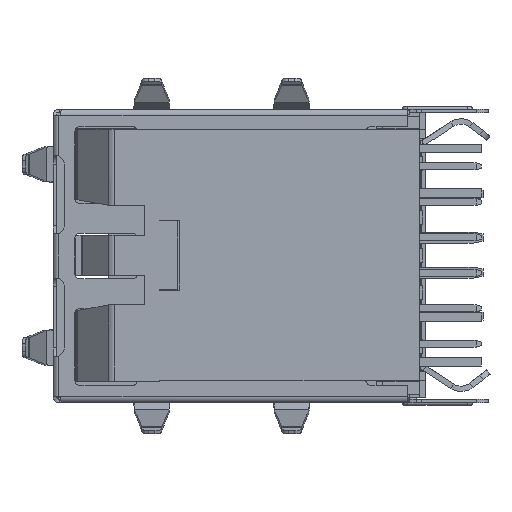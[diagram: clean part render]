
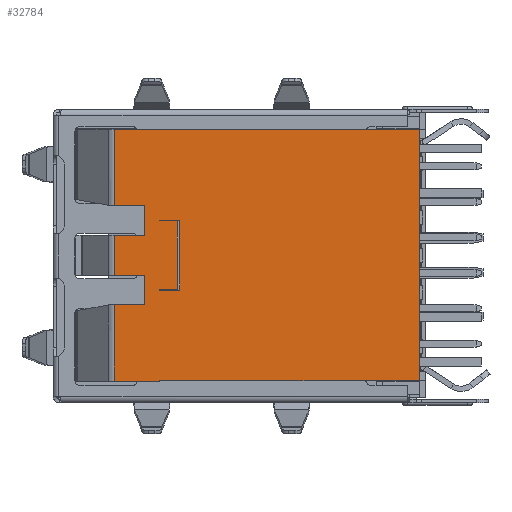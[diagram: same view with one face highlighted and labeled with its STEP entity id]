
A CAD part, left-side view. The second image highlights one B-rep face of the part: STEP entity #32784.
In plain terms, the highlighted planar face has unit normal (-1, 0, 0).
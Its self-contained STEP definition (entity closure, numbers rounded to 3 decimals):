
#2896=DIRECTION('',(0.,1.,0.));
#2897=VECTOR('',#2896,14.85);
#2898=CARTESIAN_POINT('',(-14.594,-7.823,7.175));
#2899=LINE('',#2898,#2897);
#2998=DIRECTION('',(0.,0.,1.));
#2999=VECTOR('',#2998,0.035);
#3000=CARTESIAN_POINT('',(-14.594,7.027,7.175));
#3001=LINE('',#3000,#2999);
#3014=DIRECTION('',(0.,0.,1.));
#3015=VECTOR('',#3014,0.035);
#3016=CARTESIAN_POINT('',(-14.594,7.027,-7.21));
#3017=LINE('',#3016,#3015);
#3022=DIRECTION('',(0.,1.,0.));
#3023=VECTOR('',#3022,2.593);
#3024=CARTESIAN_POINT('',(-14.594,7.027,-7.21));
#3025=LINE('',#3024,#3023);
#3026=DIRECTION('',(0.,-1.,0.));
#3027=VECTOR('',#3026,1.743);
#3028=CARTESIAN_POINT('',(-14.594,9.62,
-2.825));
#3029=LINE('',#3028,#3027);
#3030=DIRECTION('',(0.,1.,0.));
#3031=VECTOR('',#3030,1.743);
#3032=CARTESIAN_POINT('',(-14.594,7.877,2.825));
#3033=LINE('',#3032,#3031);
#3034=DIRECTION('',(0.,-1.,0.));
#3035=VECTOR('',#3034,2.593);
#3036=CARTESIAN_POINT('',(-14.594,9.62,7.21));
#3037=LINE('',#3036,#3035);
#3038=DIRECTION('',(0.,0.,-1.));
#3039=VECTOR('',#3038,14.35);
#3040=CARTESIAN_POINT('',(-14.594,-7.823,7.175));
#3041=LINE('',#3040,#3039);
#3042=DIRECTION('',(0.,-1.,0.));
#3043=VECTOR('',#3042,1.15);
#3044=CARTESIAN_POINT('',(-14.594,7.027,2.));
#3045=LINE('',#3044,#3043);
#3046=DIRECTION('',(0.,0.,1.));
#3047=VECTOR('',#3046,0.04);
#3048=CARTESIAN_POINT('',(-14.594,7.027,-2.));
#3049=LINE('',#3048,#3047);
#3060=DIRECTION('',(0.,0.,1.));
#3061=VECTOR('',#3060,0.04);
#3062=CARTESIAN_POINT('',(-14.594,7.027,1.96));
#3063=LINE('',#3062,#3061);
#3072=DIRECTION('',(0.,-1.,0.));
#3073=VECTOR('',#3072,1.15);
#3074=CARTESIAN_POINT('',(-14.594,7.027,-2.));
#3075=LINE('',#3074,#3073);
#3120=DIRECTION('',(0.,0.,1.));
#3121=VECTOR('',#3120,4.);
#3122=CARTESIAN_POINT('',(-14.594,5.877,
-2.));
#3123=LINE('',#3122,#3121);
#3128=DIRECTION('',(0.,-1.,0.));
#3129=VECTOR('',#3128,1.);
#3130=CARTESIAN_POINT('',(-14.594,7.027,
-1.96));
#3131=LINE('',#3130,#3129);
#3140=DIRECTION('',(0.,0.,1.));
#3141=VECTOR('',#3140,3.92);
#3142=CARTESIAN_POINT('',(-14.594,6.027,
-1.96));
#3143=LINE('',#3142,#3141);
#3152=DIRECTION('',(0.,-1.,0.));
#3153=VECTOR('',#3152,1.);
#3154=CARTESIAN_POINT('',(-14.594,7.027,1.96));
#3155=LINE('',#3154,#3153);
#3208=DIRECTION('',(0.,-1.,0.));
#3209=VECTOR('',#3208,14.85);
#3210=CARTESIAN_POINT('',(-14.594,7.027,-7.175));
#3211=LINE('',#3210,#3209);
#3976=DIRECTION('',(0.,0.,1.));
#3977=VECTOR('',#3976,1.675);
#3978=CARTESIAN_POINT('',(-14.594,7.877,
-2.825));
#3979=LINE('',#3978,#3977);
#4033=DIRECTION('',(0.,-1.,0.));
#4034=VECTOR('',#4033,1.743);
#4035=CARTESIAN_POINT('',(-14.594,9.62,-1.15));
#4036=LINE('',#4035,#4034);
#4172=DIRECTION('',(0.,0.,-1.));
#4173=VECTOR('',#4172,4.385);
#4174=CARTESIAN_POINT('',(-14.594,9.62,7.21));
#4175=LINE('',#4174,#4173);
#18400=DIRECTION('',(0.,-1.,0.));
#18401=VECTOR('',#18400,1.743);
#18402=CARTESIAN_POINT('',(-14.594,9.62,1.15));
#18403=LINE('',#18402,#18401);
#18461=DIRECTION('',(0.,0.,1.));
#18462=VECTOR('',#18461,1.675);
#18463=CARTESIAN_POINT('',(-14.594,7.877,
1.15));
#18464=LINE('',#18463,#18462);
#18473=DIRECTION('',(0.,0.,-1.));
#18474=VECTOR('',#18473,2.3);
#18475=CARTESIAN_POINT('',(-14.594,9.62,1.15));
#18476=LINE('',#18475,#18474);
#18922=DIRECTION('',(0.,0.,-1.));
#18923=VECTOR('',#18922,4.385);
#18924=CARTESIAN_POINT('',(-14.594,9.62,
-2.825));
#18925=LINE('',#18924,#18923);
#22084=CARTESIAN_POINT('',(-14.594,-7.823,7.175));
#22085=VERTEX_POINT('',#22084);
#22086=CARTESIAN_POINT('',(-14.594,-7.823,-7.175));
#22087=VERTEX_POINT('',#22086);
#25745=CARTESIAN_POINT('',(-14.594,9.62,
-2.825));
#25746=CARTESIAN_POINT('',(-14.594,7.877,
-2.825));
#25747=VERTEX_POINT('',#25745);
#25748=VERTEX_POINT('',#25746);
#25791=CARTESIAN_POINT('',(-14.594,7.877,
2.825));
#25792=CARTESIAN_POINT('',(-14.594,9.62,
2.825));
#25793=VERTEX_POINT('',#25791);
#25794=VERTEX_POINT('',#25792);
#25809=CARTESIAN_POINT('',(-14.594,9.62,7.21));
#25810=CARTESIAN_POINT('',(-14.594,7.027,7.21));
#25811=VERTEX_POINT('',#25809);
#25812=VERTEX_POINT('',#25810);
#25841=CARTESIAN_POINT('',(-14.594,7.027,-7.21));
#25842=CARTESIAN_POINT('',(-14.594,9.62,-7.21));
#25843=VERTEX_POINT('',#25841);
#25844=VERTEX_POINT('',#25842);
#27057=CARTESIAN_POINT('',(-14.594,7.027,7.175));
#27058=VERTEX_POINT('',#27057);
#27059=CARTESIAN_POINT('',(-14.594,7.877,
1.15));
#27060=VERTEX_POINT('',#27059);
#27061=CARTESIAN_POINT('',(-14.594,9.62,1.15));
#27062=VERTEX_POINT('',#27061);
#27063=CARTESIAN_POINT('',(-14.594,9.62,-1.15));
#27064=VERTEX_POINT('',#27063);
#27065=CARTESIAN_POINT('',(-14.594,7.877,
-1.15));
#27066=VERTEX_POINT('',#27065);
#27067=CARTESIAN_POINT('',(-14.594,7.027,-7.175));
#27068=VERTEX_POINT('',#27067);
#27069=CARTESIAN_POINT('',(-14.594,7.027,
2.));
#27070=CARTESIAN_POINT('',(-14.594,5.877,
2.));
#27071=VERTEX_POINT('',#27069);
#27072=VERTEX_POINT('',#27070);
#27073=CARTESIAN_POINT('',(-14.594,5.877,
-2.));
#27074=VERTEX_POINT('',#27073);
#27075=CARTESIAN_POINT('',(-14.594,7.027,-2.));
#27076=VERTEX_POINT('',#27075);
#27077=CARTESIAN_POINT('',(-14.594,7.027,
-1.96));
#27078=VERTEX_POINT('',#27077);
#27079=CARTESIAN_POINT('',(-14.594,6.027,
-1.96));
#27080=VERTEX_POINT('',#27079);
#27081=CARTESIAN_POINT('',(-14.594,6.027,
1.96));
#27082=VERTEX_POINT('',#27081);
#27083=CARTESIAN_POINT('',(-14.594,7.027,
1.96));
#27084=VERTEX_POINT('',#27083);
#32731=CARTESIAN_POINT('',(-14.594,-6.323,0.));
#32732=DIRECTION('',(1.,0.,0.));
#32733=DIRECTION('',(0.,-1.,0.));
#32734=AXIS2_PLACEMENT_3D('',#32731,#32732,#32733);
#32735=PLANE('',#32734);
#32737=ORIENTED_EDGE('',*,*,#32736,.F.);
#32738=ORIENTED_EDGE('',*,*,#32724,.F.);
#32740=ORIENTED_EDGE('',*,*,#32739,.T.);
#32742=ORIENTED_EDGE('',*,*,#32741,.F.);
#32744=ORIENTED_EDGE('',*,*,#32743,.T.);
#32746=ORIENTED_EDGE('',*,*,#32745,.T.);
#32748=ORIENTED_EDGE('',*,*,#32747,.F.);
#32750=ORIENTED_EDGE('',*,*,#32749,.F.);
#32752=ORIENTED_EDGE('',*,*,#32751,.T.);
#32754=ORIENTED_EDGE('',*,*,#32753,.T.);
#32756=ORIENTED_EDGE('',*,*,#32755,.T.);
#32758=ORIENTED_EDGE('',*,*,#32757,.F.);
#32760=ORIENTED_EDGE('',*,*,#32759,.T.);
#32761=ORIENTED_EDGE('',*,*,#32709,.F.);
#32762=ORIENTED_EDGE('',*,*,#32580,.F.);
#32763=ORIENTED_EDGE('',*,*,#28591,.T.);
#32764=EDGE_LOOP('',(#32737,#32738,#32740,#32742,#32744,#32746,#32748,#32750,
#32752,#32754,#32756,#32758,#32760,#32761,#32762,#32763));
#32765=FACE_OUTER_BOUND('',#32764,.F.);
#32767=ORIENTED_EDGE('',*,*,#32766,.F.);
#32769=ORIENTED_EDGE('',*,*,#32768,.F.);
#32771=ORIENTED_EDGE('',*,*,#32770,.T.);
#32773=ORIENTED_EDGE('',*,*,#32772,.F.);
#32775=ORIENTED_EDGE('',*,*,#32774,.F.);
#32777=ORIENTED_EDGE('',*,*,#32776,.F.);
#32779=ORIENTED_EDGE('',*,*,#32778,.T.);
#32781=ORIENTED_EDGE('',*,*,#32780,.T.);
#32782=EDGE_LOOP('',(#32767,#32769,#32771,#32773,#32775,#32777,#32779,#32781));
#32783=FACE_BOUND('',#32782,.F.);
#32784=ADVANCED_FACE('',(#32765,#32783),#32735,.F.);
#28591=EDGE_CURVE('',#22085,#22087,#3041,.T.);
#32580=EDGE_CURVE('',#22085,#27058,#2899,.T.);
#32709=EDGE_CURVE('',#27058,#25812,#3001,.T.);
#32724=EDGE_CURVE('',#25843,#27068,#3017,.T.);
#32736=EDGE_CURVE('',#27068,#22087,#3211,.T.);
#32739=EDGE_CURVE('',#25843,#25844,#3025,.T.);
#32741=EDGE_CURVE('',#25747,#25844,#18925,.T.);
#32743=EDGE_CURVE('',#25747,#25748,#3029,.T.);
#32745=EDGE_CURVE('',#25748,#27066,#3979,.T.);
#32747=EDGE_CURVE('',#27064,#27066,#4036,.T.);
#32749=EDGE_CURVE('',#27062,#27064,#18476,.T.);
#32751=EDGE_CURVE('',#27062,#27060,#18403,.T.);
#32753=EDGE_CURVE('',#27060,#25793,#18464,.T.);
#32755=EDGE_CURVE('',#25793,#25794,#3033,.T.);
#32757=EDGE_CURVE('',#25811,#25794,#4175,.T.);
#32759=EDGE_CURVE('',#25811,#25812,#3037,.T.);
#32766=EDGE_CURVE('',#27071,#27072,#3045,.T.);
#32768=EDGE_CURVE('',#27084,#27071,#3063,.T.);
#32770=EDGE_CURVE('',#27084,#27082,#3155,.T.);
#32772=EDGE_CURVE('',#27080,#27082,#3143,.T.);
#32774=EDGE_CURVE('',#27078,#27080,#3131,.T.);
#32776=EDGE_CURVE('',#27076,#27078,#3049,.T.);
#32778=EDGE_CURVE('',#27076,#27074,#3075,.T.);
#32780=EDGE_CURVE('',#27074,#27072,#3123,.T.);
